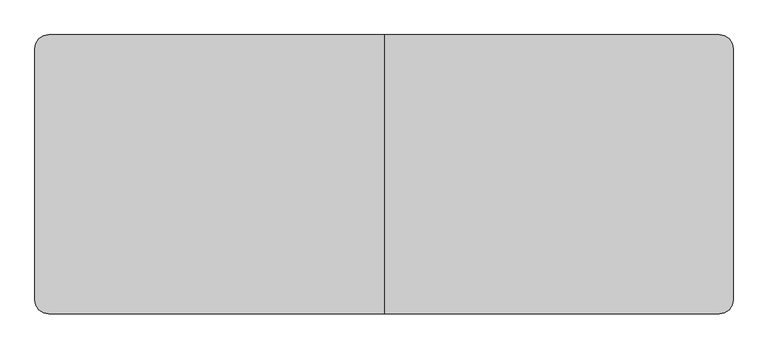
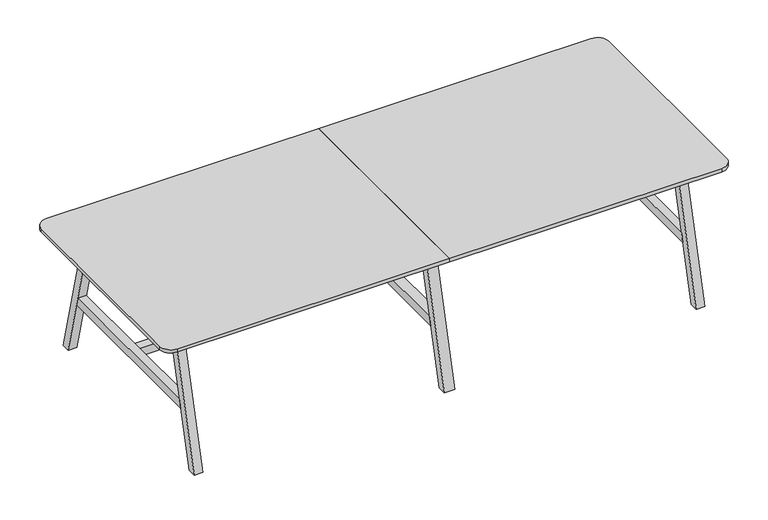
"""IFC4 building model written with IfcOpenShell, lengths in millimetres: furniture geometry, BDG_BossDesign_Tbls_AgentTables6Legs : AGE-DT-6L-3000-1200-3D."""

from ifc_helpers import new_model, si_unit, point, frame, frame_2d, origin, place, context, project, spatial, polyline, circle_curve, trimmed, segment, composite_curve, outline, extrude, source, transform, mapped, element, save


def furniture_fe5108ca(model_context):
    return source(origin(), model_context, "Body", "SweptSolid", [
        extrude(outline(polyline([(600.0, 0.0), (554.9999949, 0.0), (385.5, 660.0), (430.5000051, 660.0), (600.0, 0.0)])), frame((-27.5, 0.0, 0.0), z_axis=(1.0, 0.0, 0.0), x_axis=(0.0, 1.0, 0.0)), (0.0, 0.0, 1.0), 55.0),
        extrude(outline(polyline([(-600.0, 0.0), (-430.5000051, 660.0), (-385.5, 660.0), (-554.9999949, 0.0), (-600.0, 0.0)])), frame((-27.5, 0.0, 0.0), z_axis=(1.0, 0.0, 0.0), x_axis=(0.0, 1.0, 0.0)), (0.0, 0.0, 1.0), 55.0),
        extrude(outline(polyline([(477.9545427, 300.0), (-477.9545427, 300.0), (-466.3977249, 345.0), (466.3977249, 345.0), (477.9545427, 300.0)])), frame((-27.5, 0.0, 0.0), z_axis=(1.0, 0.0, 0.0), x_axis=(0.0, 1.0, 0.0)), (0.0, 0.0, 1.0), 55.0),
        extrude(outline(composite_curve([segment(polyline([(0.0, 600.0), (0.0, -600.0), (-1440.0, -600.0)]), True, "CONTINUOUS"), segment(trimmed(circle_curve(frame_2d((-1440.0, -540.0)), 60.0), [point((-1440.0, -600.0))], [point((-1500.0, -540.0))], False, "CARTESIAN"), True, "CONTINUOUS"), segment(polyline([(-1500.0, -540.0), (-1500.0, 540.0)]), True, "CONTINUOUS"), segment(trimmed(circle_curve(frame_2d((-1440.0, 540.0)), 60.0), [point((-1500.0, 540.0))], [point((-1440.0, 600.0))], False, "CARTESIAN"), True, "CONTINUOUS"), segment(polyline([(-1440.0, 600.0), (0.0, 600.0)]), True, "CONTINUOUS")], self_intersect=False)), frame((0.0, 0.0, 722.0), z_axis=(0.0, 0.0, 1.0), x_axis=(1.0, 0.0, 0.0)), (0.0, 0.0, 1.0), 18.0),
        extrude(outline(polyline([(-466.3977249, 345.0), (466.3977249, 345.0), (477.9545427, 300.0), (-477.9545427, 300.0), (-466.3977249, 345.0)])), frame((1305.0, 0.0, 0.0), z_axis=(1.0, 0.0, 0.0), x_axis=(0.0, 1.0, 0.0)), (0.0, 0.0, 1.0), 45.0),
        extrude(outline(polyline([(600.0, 0.0), (554.9999949, 0.0), (385.5, 660.0), (430.5000051, 660.0), (600.0, 0.0)])), frame((-1350.0, 0.0, 0.0), z_axis=(1.0, 0.0, 0.0), x_axis=(0.0, 1.0, 0.0)), (0.0, 0.0, 1.0), 45.0),
        extrude(outline(polyline([(-600.0, 0.0), (-430.5000051, 660.0), (-385.5, 660.0), (-554.9999949, 0.0), (-600.0, 0.0)])), frame((-1350.0, 0.0, 0.0), z_axis=(1.0, 0.0, 0.0), x_axis=(0.0, 1.0, 0.0)), (0.0, 0.0, 1.0), 45.0),
        extrude(outline(polyline([(-466.3977249, 345.0), (466.3977249, 345.0), (477.9545427, 300.0), (-477.9545427, 300.0), (-466.3977249, 345.0)])), frame((-1350.0, 0.0, 0.0), z_axis=(1.0, 0.0, 0.0), x_axis=(0.0, 1.0, 0.0)), (0.0, 0.0, 1.0), 45.0),
        extrude(outline(polyline([(-426.6006165, 634.973938), (-404.2770691, 722.0), (-379.5, 722.0), (-401.8235474, 634.973938), (-426.6006165, 634.973938)])), frame((-1305.0, 0.0, 0.0), z_axis=(1.0, 0.0, 0.0), x_axis=(0.0, 1.0, 0.0)), (0.0, 0.0, 1.0), 2610.0),
        extrude(outline(polyline([(426.6006165, 634.973938), (401.8235474, 634.973938), (379.5, 722.0), (404.2770691, 722.0), (426.6006165, 634.973938)])), frame((-1305.0, 0.0, 0.0), z_axis=(1.0, 0.0, 0.0), x_axis=(0.0, 1.0, 0.0)), (0.0, 0.0, 1.0), 2610.0),
        extrude(outline(polyline([(599.7999878, 0.0), (554.7999827, 0.0), (385.5, 660.0), (430.5000051, 660.0), (599.7999878, 0.0)])), frame((1305.0, 0.0, 0.0), z_axis=(1.0, 0.0, 0.0), x_axis=(0.0, 1.0, 0.0)), (0.0, 0.0, 1.0), 45.0),
        extrude(outline(polyline([(-599.7999878, 0.0), (-430.5000051, 660.0), (-385.5, 660.0), (-554.7999827, 0.0), (-599.7999878, 0.0)])), frame((1305.0, 0.0, 0.0), z_axis=(1.0, 0.0, 0.0), x_axis=(0.0, 1.0, 0.0)), (0.0, 0.0, 1.0), 45.0),
        extrude(outline(polyline([(-27.5, 22.5000305), (-27.5, -22.5000305), (-1305.0, -22.5000305), (-1305.0, 22.5000305), (-27.5, 22.5000305)])), frame((0.0, 0.0, 300.0), z_axis=(0.0, 0.0, 1.0), x_axis=(1.0, 0.0, 0.0)), (0.0, 0.0, 1.0), 45.0),
        extrude(outline(polyline([(27.5, -22.5000305), (27.5, 22.5000305), (1305.0, 22.5000305), (1305.0, -22.5000305), (27.5, -22.5000305)])), frame((0.0, 0.0, 300.0), z_axis=(0.0, 0.0, 1.0), x_axis=(1.0, 0.0, 0.0)), (0.0, 0.0, 1.0), 45.0),
        extrude(outline(composite_curve([segment(trimmed(circle_curve(frame_2d((1440.0, 540.0)), 60.0), [point((1440.0, 600.0))], [point((1500.0, 540.0))], False, "CARTESIAN"), True, "CONTINUOUS"), segment(polyline([(1500.0, 540.0), (1500.0, -540.0)]), True, "CONTINUOUS"), segment(trimmed(circle_curve(frame_2d((1440.0, -540.0)), 60.0), [point((1500.0, -540.0))], [point((1440.0, -600.0))], False, "CARTESIAN"), True, "CONTINUOUS"), segment(polyline([(1440.0, -600.0), (0.0, -600.0), (0.0, 600.0), (1440.0, 600.0)]), True, "CONTINUOUS")], self_intersect=False)), frame((0.0, 0.0, 722.0), z_axis=(0.0, 0.0, 1.0), x_axis=(1.0, 0.0, 0.0)), (0.0, 0.0, 1.0), 18.0),
    ])


if __name__ == "__main__":
    model = new_model("IFC4")
    model_context = context("Model", 3, world=origin())
    ifc_project = project(units=[si_unit("LENGTHUNIT", "METRE", prefix="MILLI")], contexts=[model_context])
    site = spatial("IfcSite", under=ifc_project)
    building = spatial("IfcBuilding", under=site)
    placement = place(None, origin())
    furniture_shape = furniture_fe5108ca(model_context)
    element("IfcFurniture", 1, ObjectType="BDG_BossDesign_Tbls_AgentTables6Legs : AGE-DT-6L-3000-1200-3D", at=placement, inside=building, context=model_context, shape_type="MappedRepresentation", body=[
        mapped(furniture_shape, transform((0.0, 0.0, 0.0), x_axis=(1.0, 0.0, 0.0), y_axis=(0.0, 1.0, 0.0), z_axis=(0.0, 0.0, 1.0))),
    ])
    save(model, "model.ifc")
